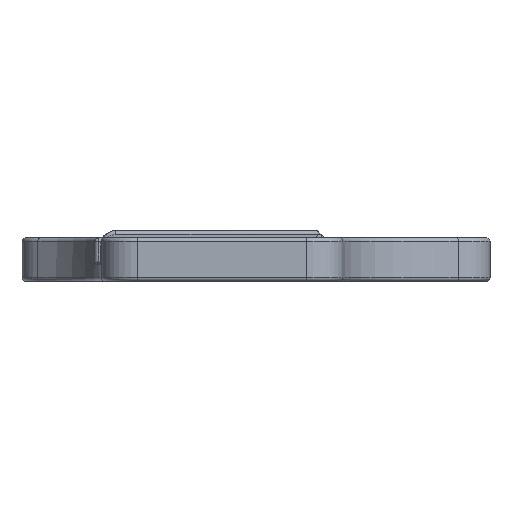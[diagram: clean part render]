
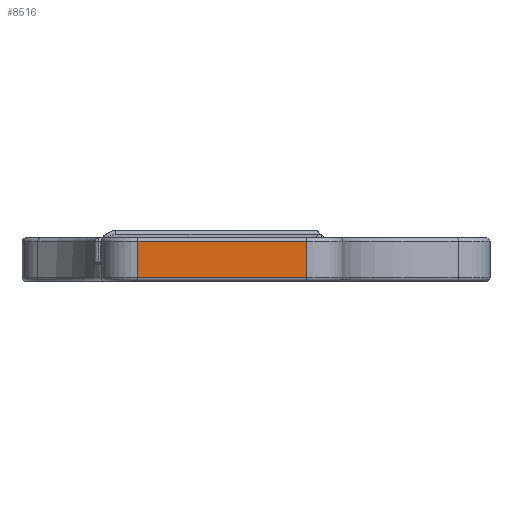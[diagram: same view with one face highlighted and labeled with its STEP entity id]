
A CAD part, left-side view. The second image highlights one B-rep face of the part: STEP entity #8516.
In plain terms, the highlighted planar face has unit normal (-1, 0, 0).
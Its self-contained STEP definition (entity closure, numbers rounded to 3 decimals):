
#8503=AXIS2_PLACEMENT_3D('Plane Axis2P3D',#8500,#8501,#8502) ;
#4533=CARTESIAN_POINT('Vertex',(-45.,19.,0.5)) ;
#4891=CARTESIAN_POINT('Vertex',(-45.,-4.5,0.5)) ;
#4911=CARTESIAN_POINT('Line Origine',(-45.,2.538,0.5)) ;
#5282=CARTESIAN_POINT('Vertex',(-45.,19.,5.5)) ;
#5333=CARTESIAN_POINT('Line Origine',(-45.,2.538,5.5)) ;
#5337=CARTESIAN_POINT('Vertex',(-45.,-4.5,5.5)) ;
#7796=CARTESIAN_POINT('Line Origine',(-45.,-4.5,3.5)) ;
#8500=CARTESIAN_POINT('Axis2P3D Location',(-45.,-4.5,0.)) ;
#8505=CARTESIAN_POINT('Line Origine',(-45.,19.,3.)) ;
#4912=DIRECTION('Vector Direction',(0.,1.,0.)) ;
#5334=DIRECTION('Vector Direction',(0.,-1.,0.)) ;
#7797=DIRECTION('Vector Direction',(0.,0.,1.)) ;
#8501=DIRECTION('Axis2P3D Direction',(1.,0.,0.)) ;
#8502=DIRECTION('Axis2P3D XDirection',(0.,1.,0.)) ;
#8506=DIRECTION('Vector Direction',(0.,0.,1.)) ;
#4913=VECTOR('Line Direction',#4912,1.) ;
#5335=VECTOR('Line Direction',#5334,1.) ;
#7798=VECTOR('Line Direction',#7797,1.) ;
#8507=VECTOR('Line Direction',#8506,1.) ;
#8511=ORIENTED_EDGE('',*,*,#4915,.T.) ;
#8512=ORIENTED_EDGE('',*,*,#7800,.T.) ;
#8513=ORIENTED_EDGE('',*,*,#5339,.F.) ;
#8514=ORIENTED_EDGE('',*,*,#8509,.F.) ;
#8516=ADVANCED_FACE('v5_Dado',(#8515),#8504,.F.) ;
#4915=EDGE_CURVE('',#4534,#4892,#4914,.F.) ;
#5339=EDGE_CURVE('',#5283,#5338,#5336,.T.) ;
#7800=EDGE_CURVE('',#4892,#5338,#7799,.T.) ;
#8509=EDGE_CURVE('',#4534,#5283,#8508,.T.) ;
#8510=EDGE_LOOP('',(#8511,#8512,#8513,#8514)) ;
#8515=FACE_OUTER_BOUND('',#8510,.T.) ;
#4914=LINE('Line',#4911,#4913) ;
#5336=LINE('Line',#5333,#5335) ;
#7799=LINE('Line',#7796,#7798) ;
#8508=LINE('Line',#8505,#8507) ;
#8504=PLANE('',#8503) ;
#4534=VERTEX_POINT('',#4533) ;
#4892=VERTEX_POINT('',#4891) ;
#5283=VERTEX_POINT('',#5282) ;
#5338=VERTEX_POINT('',#5337) ;
